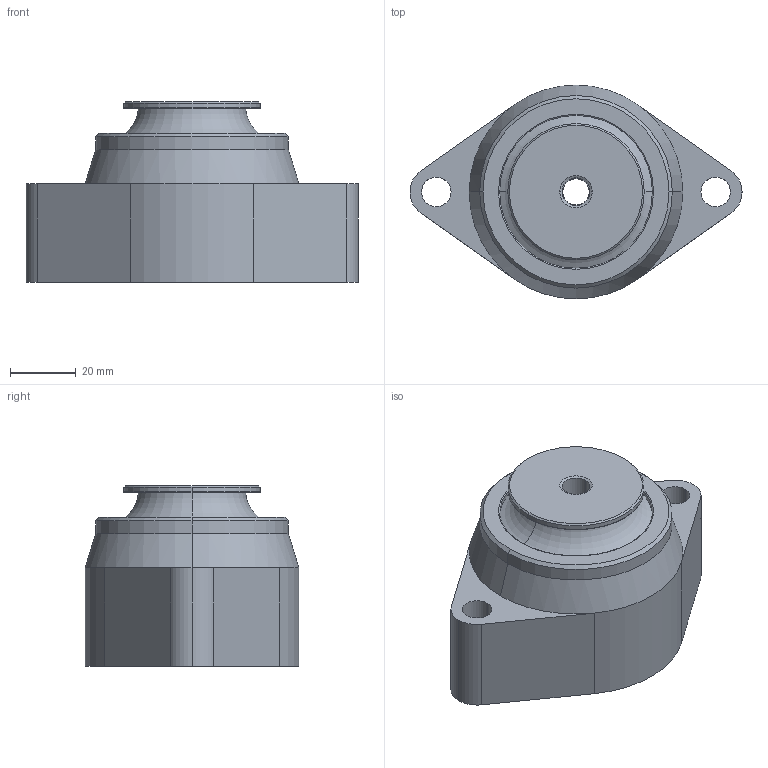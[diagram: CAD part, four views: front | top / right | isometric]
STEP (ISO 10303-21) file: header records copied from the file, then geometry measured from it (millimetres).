
FILE_DESCRIPTION(('STEP AP214'),'1');
FILE_NAME('C:/Transfer Dokumente/EluFlex_60_ZDMF_CAD.stp','2020-09-15T12:40:07',(' '),(' '),'Spatial InterOp 3D',' ',' ');
FILE_SCHEMA(('automotive_design'));
Length unit declared in the file: millimetre
Products named in the file (1): 1
Bounding box: 101 x 65 x 55 mm (x, y, z)
Volume: 133043.1 mm3; surface area: 32169.5 mm2
Topology: 1 solids, 5 shells, 119 faces, 261 edges, 149 vertices
Faces by surface type: torus 40, cylinder 36, cone 30, plane 13
Entity records: 3313 total; most frequent: DIRECTION 684, CARTESIAN_POINT 530, ORIENTED_EDGE 522, AXIS2_PLACEMENT_3D 303, EDGE_CURVE 261, CIRCLE 183, VERTEX_POINT 149, EDGE_LOOP 130
